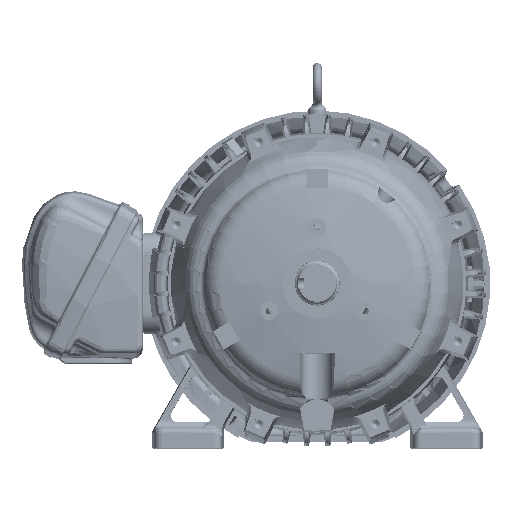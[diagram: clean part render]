
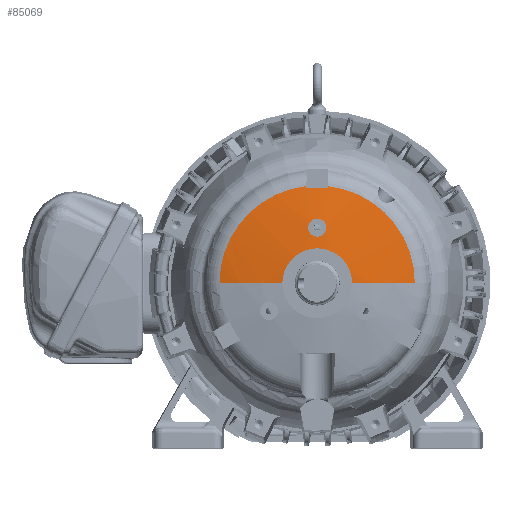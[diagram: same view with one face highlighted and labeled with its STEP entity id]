
A CAD part, top view. The second image highlights one B-rep face of the part: STEP entity #85069.
In plain terms, the highlighted spherical face has radius 558.8 mm.
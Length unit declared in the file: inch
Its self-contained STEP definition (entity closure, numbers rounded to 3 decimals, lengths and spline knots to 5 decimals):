
#72578=CARTESIAN_POINT('',(0.,0.,-3.78825));
#72579=DIRECTION('',(0.,0.,-1.));
#72580=DIRECTION('',(-1.,0.,0.));
#72581=AXIS2_PLACEMENT_3D('',#72578,#72579,#72580);
#72583=CARTESIAN_POINT('',(-0.5211,4.69413,
-3.78825));
#72660=CARTESIAN_POINT('',(0.5211,4.69413,
-3.78825));
#72662=CARTESIAN_POINT('',(0.,0.,-3.78825));
#72663=DIRECTION('',(0.,0.,-1.));
#72664=DIRECTION('',(0.11,0.994,0.));
#72665=AXIS2_PLACEMENT_3D('',#72662,#72663,#72664);
#72691=CARTESIAN_POINT('',(0.,0.,17.6988));
#72692=DIRECTION('',(0.,1.,0.));
#72693=DIRECTION('',(-0.077,0.,-0.997));
#72694=AXIS2_PLACEMENT_3D('',#72691,#72692,#72693);
#72746=CARTESIAN_POINT('',(0.,0.,17.6988));
#72747=DIRECTION('',(0.,-1.,0.));
#72748=DIRECTION('',(0.077,0.,-0.997));
#72749=AXIS2_PLACEMENT_3D('',#72746,#72747,#72748);
#72817=CARTESIAN_POINT('',(0.,0.,-4.23638));
#72818=DIRECTION('',(0.,0.,1.));
#72819=DIRECTION('',(1.,0.,0.));
#72820=AXIS2_PLACEMENT_3D('',#72817,#72818,#72819);
#72822=CARTESIAN_POINT('',(0.64358,0.01685,
17.6988));
#72823=DIRECTION('',(1.,0.026,0.));
#72824=DIRECTION('',(-0.005,0.208,-0.978));
#72825=AXIS2_PLACEMENT_3D('',#72822,#72823,#72824);
#72827=CARTESIAN_POINT('',(-0.64358,0.01685,
17.6988));
#72828=DIRECTION('',(-1.,0.026,0.));
#72829=DIRECTION('',(0.006,0.213,-0.977));
#72830=AXIS2_PLACEMENT_3D('',#72827,#72828,#72829);
#72832=CARTESIAN_POINT('',(0.,0.,-4.23638));
#72833=DIRECTION('',(0.,0.,1.));
#72834=DIRECTION('',(0.,1.,0.));
#72835=AXIS2_PLACEMENT_3D('',#72832,#72833,#72834);
#72837=CARTESIAN_POINT('',(-0.4375,2.6875,-4.13204));
#72838=CARTESIAN_POINT('',(-0.4375,2.6483,-4.13687));
#72839=CARTESIAN_POINT('',(-0.42691,2.57134,
-4.14634));
#72840=CARTESIAN_POINT('',(-0.38355,2.46768,
-4.15909));
#72841=CARTESIAN_POINT('',(-0.31828,2.38102,
-4.16974));
#72842=CARTESIAN_POINT('',(-0.23627,2.31458,
-4.1779));
#72843=CARTESIAN_POINT('',(-0.14579,2.27095,
-4.18326));
#72844=CARTESIAN_POINT('',(-0.04754,2.2489,
-4.18597));
#72845=CARTESIAN_POINT('',(0.04935,2.24912,
-4.18594));
#72846=CARTESIAN_POINT('',(0.14728,2.27148,
-4.1832));
#72847=CARTESIAN_POINT('',(0.23766,2.31548,
-4.17779));
#72848=CARTESIAN_POINT('',(0.31904,2.38187,
-4.16964));
#72849=CARTESIAN_POINT('',(0.38402,2.46854,
-4.15898));
#72850=CARTESIAN_POINT('',(0.42702,2.57191,
-4.14627));
#72851=CARTESIAN_POINT('',(0.4375,2.64851,-4.13684));
#72852=CARTESIAN_POINT('',(0.4375,2.6875,-4.13204));
#72854=CARTESIAN_POINT('',(0.4375,2.6875,-4.13204));
#72855=CARTESIAN_POINT('',(0.4375,2.72356,-4.12761));
#72856=CARTESIAN_POINT('',(0.42861,2.79683,
-4.11858));
#72857=CARTESIAN_POINT('',(0.38606,2.90394,
-4.10538));
#72858=CARTESIAN_POINT('',(0.31614,2.9974,
-4.09386));
#72859=CARTESIAN_POINT('',(0.22307,3.06989,
-4.08492));
#72860=CARTESIAN_POINT('',(0.11538,3.11479,
-4.07938));
#72861=CARTESIAN_POINT('',(0.00004,3.1301,
-4.07749));
#72862=CARTESIAN_POINT('',(-0.11535,3.11479,
-4.07938));
#72863=CARTESIAN_POINT('',(-0.22292,3.06997,
-4.08491));
#72864=CARTESIAN_POINT('',(-0.3161,2.99748,
-4.09385));
#72865=CARTESIAN_POINT('',(-0.38617,2.90377,
-4.1054));
#72866=CARTESIAN_POINT('',(-0.42867,2.79657,
-4.11861));
#72867=CARTESIAN_POINT('',(-0.4375,2.72344,-4.12762));
#72868=CARTESIAN_POINT('',(-0.4375,2.6875,-4.13204));
#72882=CARTESIAN_POINT('',(0.,0.,-3.81));
#72883=DIRECTION('',(0.,0.,-1.));
#72884=DIRECTION('',(-0.113,0.994,0.));
#72885=AXIS2_PLACEMENT_3D('',#72882,#72883,#72884);
#82034=VERTEX_POINT('',#72583);
#82037=VERTEX_POINT('',#72660);
#82050=CARTESIAN_POINT('',(-0.52375,4.59315,-3.81));
#82051=VERTEX_POINT('',#82050);
#82052=CARTESIAN_POINT('',(0.52375,4.59315,-3.81));
#82053=VERTEX_POINT('',#82052);
#83027=CARTESIAN_POINT('',(1.6875,0.,-4.23638));
#83028=CARTESIAN_POINT('',(0.,1.6875,-4.23638));
#83029=VERTEX_POINT('',#83027);
#83030=VERTEX_POINT('',#83028);
#83031=CARTESIAN_POINT('',(-1.6875,0.,-4.23638));
#83032=VERTEX_POINT('',#83031);
#83035=CARTESIAN_POINT('',(-4.72296,0.,-3.78825));
#83036=VERTEX_POINT('',#83035);
#83037=CARTESIAN_POINT('',(4.72296,0.,-3.78825));
#83038=VERTEX_POINT('',#83037);
#83059=VERTEX_POINT('',#72837);
#83060=VERTEX_POINT('',#72852);
#85043=CARTESIAN_POINT('',(0.,0.,17.6988));
#85044=DIRECTION('',(0.,0.,-1.));
#85045=DIRECTION('',(1.,0.,0.));
#85046=AXIS2_PLACEMENT_3D('',#85043,#85044,#85045);
#85047=SPHERICAL_SURFACE('',#85046,22.);
#85048=ORIENTED_EDGE('',*,*,#85031,.F.);
#85049=ORIENTED_EDGE('',*,*,#85009,.T.);
#85050=ORIENTED_EDGE('',*,*,#84948,.F.);
#85052=ORIENTED_EDGE('',*,*,#85051,.F.);
#85054=ORIENTED_EDGE('',*,*,#85053,.F.);
#85056=ORIENTED_EDGE('',*,*,#85055,.F.);
#85057=ORIENTED_EDGE('',*,*,#84910,.F.);
#85058=ORIENTED_EDGE('',*,*,#84980,.F.);
#85060=ORIENTED_EDGE('',*,*,#85059,.F.);
#85061=EDGE_LOOP('',(#85048,#85049,#85050,#85052,#85054,#85056,#85057,#85058,
#85060));
#85062=FACE_OUTER_BOUND('',#85061,.F.);
#85064=ORIENTED_EDGE('',*,*,#85063,.F.);
#85066=ORIENTED_EDGE('',*,*,#85065,.F.);
#85067=EDGE_LOOP('',(#85064,#85066));
#85068=FACE_BOUND('',#85067,.F.);
#85069=ADVANCED_FACE('',(#85062,#85068),#85047,.T.);
#72582=CIRCLE('',#72581,4.72296);
#72666=CIRCLE('',#72665,4.72296);
#72695=CIRCLE('',#72694,22.);
#72750=CIRCLE('',#72749,22.);
#72821=CIRCLE('',#72820,1.6875);
#72826=CIRCLE('',#72825,21.99058);
#72831=CIRCLE('',#72830,21.99058);
#72836=CIRCLE('',#72835,1.6875);
#72853=B_SPLINE_CURVE_WITH_KNOTS('',3,(#72837,#72838,#72839,#72840,#72841,
#72842,#72843,#72844,#72845,#72846,#72847,#72848,#72849,#72850,#72851,#72852),
.UNSPECIFIED.,.F.,.F.,(4,1,1,1,1,1,1,1,1,1,1,1,1,4),(0.,0.07692,
0.15385,0.23077,0.30769,0.38462,
0.46154,0.53846,0.61538,0.69231,
0.76923,0.84615,0.92308,1.),.UNSPECIFIED.);
#72869=B_SPLINE_CURVE_WITH_KNOTS('',3,(#72854,#72855,#72856,#72857,#72858,
#72859,#72860,#72861,#72862,#72863,#72864,#72865,#72866,#72867,#72868),
.UNSPECIFIED.,.F.,.F.,(4,1,1,1,1,1,1,1,1,1,1,1,4),(0.,0.08333,
0.16667,0.25,0.33333,0.41667,0.5,
0.58333,0.66667,0.75,0.83333,0.91667,
1.),.UNSPECIFIED.);
#72886=CIRCLE('',#72885,4.62292);
#84910=EDGE_CURVE('',#83036,#82034,#72582,.T.);
#84948=EDGE_CURVE('',#82037,#83038,#72666,.T.);
#84980=EDGE_CURVE('',#83032,#83036,#72695,.T.);
#85009=EDGE_CURVE('',#83029,#83038,#72750,.T.);
#85031=EDGE_CURVE('',#83029,#83030,#72821,.T.);
#85051=EDGE_CURVE('',#82053,#82037,#72826,.T.);
#85053=EDGE_CURVE('',#82051,#82053,#72886,.T.);
#85055=EDGE_CURVE('',#82034,#82051,#72831,.T.);
#85059=EDGE_CURVE('',#83030,#83032,#72836,.T.);
#85063=EDGE_CURVE('',#83059,#83060,#72853,.T.);
#85065=EDGE_CURVE('',#83060,#83059,#72869,.T.);
